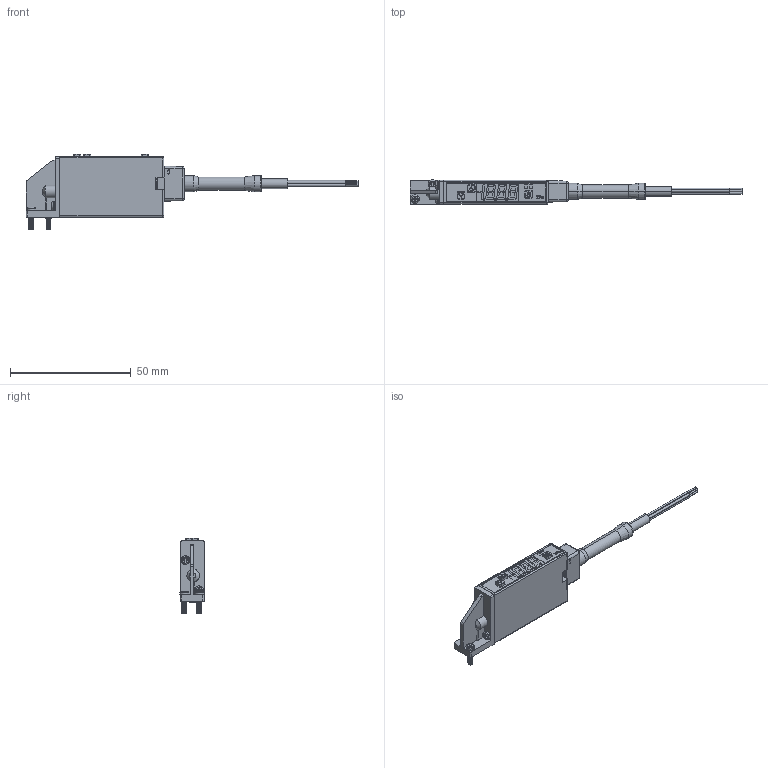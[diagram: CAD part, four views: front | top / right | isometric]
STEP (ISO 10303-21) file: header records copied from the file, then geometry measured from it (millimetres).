
FILE_DESCRIPTION((''),'2;1');
FILE_NAME('KP92_L_ASM','2022-11-18T',('tommy'),(''),'CREO PARAMETRIC BY PTC INC, 2014500','CREO PARAMETRIC BY PTC INC, 2014500','');
FILE_SCHEMA(('CONFIG_CONTROL_DESIGN'));
Products named in the file (6): KP92_L; W-0074-KP92; CN-0048; P-0666_OGYA; CN-0048-04_ASM; KP92_L_ASM
Assembly tree (5 placements, depth 3):
  KP92_L_ASM
    KP92_L
    CN-0048-04_ASM
      W-0074-KP92
      CN-0048
      P-0666_OGYA
Bounding box: 137.25 x 10.05 x 31.34 mm (x, y, z)
Volume: 9240.6 mm3; surface area: 16987.8 mm2
Topology: 5 solids, 5 shells, 3339 faces, 8893 edges, 5833 vertices
Faces by surface type: plane 2542, cylinder 585, bspline 86, cone 73, torus 44, sphere 9
Entity records: 165872 total; most frequent: CARTESIAN_POINT 82547, ORIENTED_EDGE 17778, DIRECTION 16019, EDGE_CURVE 8889, VECTOR 7281, LINE 7281, VERTEX_POINT 5833, AXIS2_PLACEMENT_3D 4369
